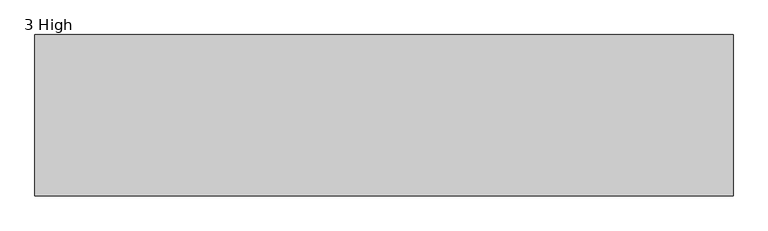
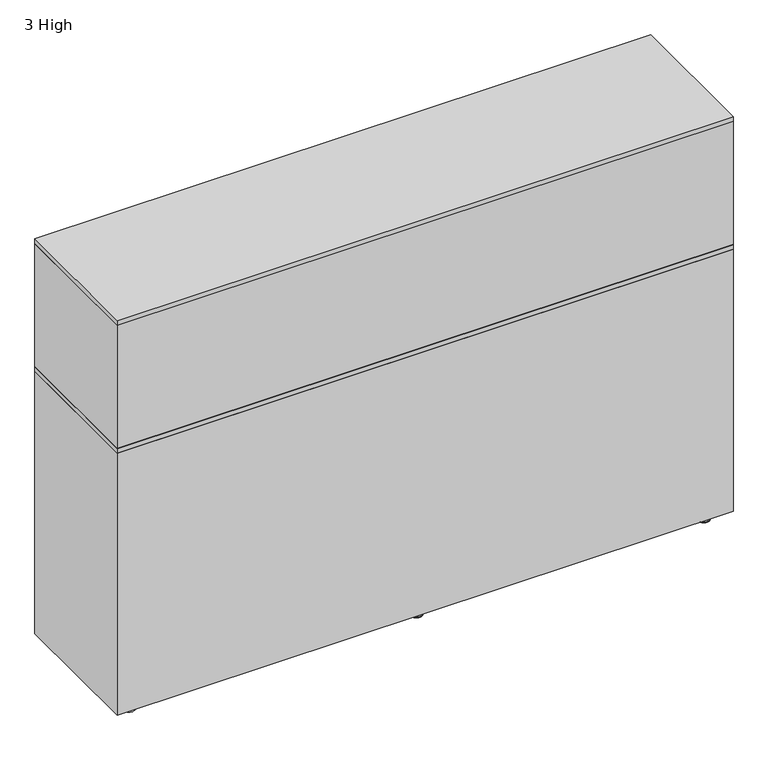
"""IFC4 building model written with IfcOpenShell, lengths in millimetres: furniture geometry, Steelcase Turnstone - Bivi - Storage - Depot : 3 High."""

from ifc_helpers import new_model, si_unit, point, frame, frame_2d, origin, place, context, project, spatial, polyline, circle_curve, ellipse_curve, trimmed, segment, composite_curve, outline, extrude, faceted_brep, source, transform, mapped, element, save
from ifc_brep_helpers import plane_surface, cylinder_surface, revolved_surface, spline_surface, advanced_brep


def furniture_3_high_75bf60bf(model_context):
    return source(origin(), model_context, "Body", "SolidModel", [
        extrude(outline(polyline([(1524.0, 0.0), (1524.0, -352.425), (0.0, -352.425), (0.0, 0.0), (1524.0, 0.0)])), frame((0.0, 0.0, 711.2), z_axis=(0.0, 0.0, 1.0), x_axis=(1.0, 0.0, 0.0)), (0.0, 0.0, 1.0), 11.8411135),
        extrude(outline(polyline([(1524.0, 0.0), (1524.0, -352.425), (0.0, -352.425), (0.0, 0.0), (1524.0, 0.0)])), frame((0.0, 0.0, 1045.1923436), z_axis=(0.0, 0.0, 1.0), x_axis=(1.0, 0.0, 0.0)), (0.0, 0.0, 1.0), 12.5983953),
        faceted_brep([(1524.0, 0.0, 1045.1923436), (1524.0, -352.425, 1045.1923436), (1524.0, -352.425, 723.9), (1524.0, 0.0, 723.9), (0.0, 0.0, 1045.1923436), (0.0, 0.0, 723.9), (0.0, -352.425, 723.9), (0.0, -352.425, 1045.1923436), (13.081, 0.0, 1045.1923436), (13.081, 0.0, 736.6), (468.2743967, 0.0, 736.6), (468.2743967, 0.0, 1045.1923436), (481.3553933, 0.0, 1045.1923436), (481.3553933, 0.0, 736.6), (1041.2984316, 0.0, 736.6), (1041.2984316, 0.0, 1045.1923436), (1054.3793919, 0.0, 1045.1923436), (1054.3793919, 0.0, 736.6), (1510.9189671, 0.0, 736.6), (1510.9189671, 0.0, 1045.1923436), (1510.9189671, -339.217, 1045.1923436), (1054.3793919, -339.217, 1045.1923436), (1041.2984316, -339.217, 1045.1923436), (481.3553933, -339.217, 1045.1923436), (468.2743967, -339.217, 1045.1923436), (13.081, -339.217, 1045.1923436), (13.081, -339.217, 736.6), (468.2743967, -339.217, 736.6), (481.3553933, -339.217, 736.6), (1041.2984316, -339.217, 736.6), (1054.3793919, -339.217, 736.6), (1510.9189671, -339.217, 736.6)], [[[0, 1, 2, 3]], [[4, 5, 6, 7]], [[3, 5, 4, 8, 9, 10, 11, 12, 13, 14, 15, 16, 17, 18, 19, 0]], [[2, 6, 5, 3]], [[1, 7, 6, 2]], [[0, 19, 20, 21, 16, 15, 22, 23, 12, 11, 24, 25, 8, 4, 7, 1]], [[26, 9, 8, 25]], [[27, 10, 9, 26]], [[24, 11, 10, 27]], [[28, 13, 12, 23]], [[29, 14, 13, 28]], [[22, 15, 14, 29]], [[30, 17, 16, 21]], [[31, 18, 17, 30]], [[20, 19, 18, 31]], [[25, 24, 27, 26]], [[23, 22, 29, 28]], [[21, 20, 31, 30]]]),
        advanced_brep(
        [(776.7323801, -38.0780241, 2.6178944), (762.0156381, -38.0780241, 2.6178944), (747.2988961, -38.0780241, 2.6178944), (769.706563, -38.0780241, 8.8411838), (754.3247132, -38.0780241, 8.8411838), (769.706563, -38.0780241, 10.8986525), (754.3247132, -38.0780241, 10.8986525), (762.0156381, -38.0780241, 10.8986525)],
        [
            (0, 1),
            (1, 2),
            (2, 0, circle_curve(frame((762.0156381, -38.0780241, 2.6178944), z_axis=(0.0, 0.0, -1.0), x_axis=(-1.0, 0.0, 0.0)), 14.716742)),
            (0, 2, circle_curve(frame((762.0156381, -38.0780241, 2.6178944), z_axis=(0.0, 0.0, -1.0), x_axis=(-1.0, 0.0, 0.0)), 14.716742)),
            (3, 0, circle_curve(frame((776.0093917, -38.0780241, 8.8792349), z_axis=(0.0, -1.0, 0.0), x_axis=(-1.0, 0.0, 0.0)), 6.3029436)),
            (2, 4, circle_curve(frame((748.0218845, -38.0780241, 8.8792349), z_axis=(0.0, -1.0, 0.0), x_axis=(1.0, 0.0, 0.0)), 6.3029436)),
            (4, 3, circle_curve(frame((762.0156381, -38.0780241, 8.8411838), z_axis=(0.0, 0.0, -1.0), x_axis=(-1.0, 0.0, 0.0)), 7.6909249)),
            (3, 4, circle_curve(frame((762.0156381, -38.0780241, 8.8411838), z_axis=(0.0, 0.0, -1.0), x_axis=(-1.0, 0.0, 0.0)), 7.6909249)),
            (5, 3),
            (4, 6),
            (6, 5, circle_curve(frame((762.0156381, -38.0780241, 10.8986525), z_axis=(0.0, 0.0, -1.0), x_axis=(-1.0, 0.0, 0.0)), 7.6909249)),
            (5, 6, circle_curve(frame((762.0156381, -38.0780241, 10.8986525), z_axis=(0.0, 0.0, -1.0), x_axis=(-1.0, 0.0, 0.0)), 7.6909249)),
            (7, 5),
            (6, 7),
        ],
        [
            plane_surface(frame((762.0156381, -38.0780241, 2.6178944), z_axis=(0.0, 0.0, -1.0), x_axis=(-1.0, 0.0, 0.0))),
            revolved_surface(trimmed(ellipse_curve(frame((748.0218845, -38.0780241, 8.8792349), z_axis=(0.0, -1.0, 0.0), x_axis=(1.0, 0.0, 0.0)), 6.3029436, 6.3029436), [point((747.2988961, -38.0780241, 2.6178944))], [point((754.3247132, -38.0780241, 8.8411838))], True, "CARTESIAN"), (762.0156381, -38.0780241, 10.8986525), (0.0, 0.0, 1.0)),
            cylinder_surface(frame((762.0156381, -38.0780241, 10.8986525), z_axis=(0.0, 0.0, 1.0), x_axis=(-1.0, 0.0, 0.0)), 7.6909249),
            plane_surface(frame((762.0156381, -38.0780241, 10.8986525), z_axis=(0.0, 0.0, 1.0), x_axis=(-1.0, 0.0, 0.0))),
        ],
        [
            (0, [[1, 2, 3]]),
            (0, [[-2, -1, 4]]),
            (1, [[5, -3, 6, 7]]),
            (1, [[-6, -4, -5, 8]]),
            (2, [[9, -7, 10, 11]]),
            (2, [[-10, -8, -9, 12]]),
            (3, [[13, -11, 14]]),
            (3, [[-14, -12, -13]]),
        ],
    ),
        advanced_brep(
        [(775.1743443, -38.0780241, 0.0), (762.0269522, -38.0780241, 0.0), (748.8795601, -38.0780241, 0.0), (776.7550083, -38.0780241, 1.580664), (747.2988961, -38.0780241, 1.580664), (776.7550083, -38.0780241, 2.6178944), (747.2988961, -38.0780241, 2.6178944), (762.0269522, -38.0780241, 2.6178944)],
        [
            (0, 1),
            (1, 2),
            (2, 0, circle_curve(frame((762.0269522, -38.0780241, 0.0), z_axis=(0.0, 0.0, -1.0), x_axis=(-1.0, 0.0, 0.0)), 13.1473921)),
            (0, 2, circle_curve(frame((762.0269522, -38.0780241, 0.0), z_axis=(0.0, 0.0, -1.0), x_axis=(-1.0, 0.0, 0.0)), 13.1473921)),
            (3, 0, circle_curve(frame((775.1743443, -38.0780241, 1.580664), z_axis=(0.0, 1.0, 0.0), x_axis=(-1.0, 0.0, 0.0)), 1.580664)),
            (2, 4, circle_curve(frame((748.8795601, -38.0780241, 1.580664), z_axis=(0.0, 1.0, 0.0), x_axis=(1.0, 0.0, 0.0)), 1.580664)),
            (4, 3, circle_curve(frame((762.0269522, -38.0780241, 1.580664), z_axis=(0.0, 0.0, -1.0), x_axis=(-1.0, 0.0, 0.0)), 14.7280561)),
            (3, 4, circle_curve(frame((762.0269522, -38.0780241, 1.580664), z_axis=(0.0, 0.0, -1.0), x_axis=(-1.0, 0.0, 0.0)), 14.7280561)),
            (5, 3),
            (4, 6),
            (6, 5, circle_curve(frame((762.0269522, -38.0780241, 2.6178944), z_axis=(0.0, 0.0, -1.0), x_axis=(-1.0, 0.0, 0.0)), 14.7280561)),
            (5, 6, circle_curve(frame((762.0269522, -38.0780241, 2.6178944), z_axis=(0.0, 0.0, -1.0), x_axis=(-1.0, 0.0, 0.0)), 14.7280561)),
            (7, 5),
            (6, 7),
        ],
        [
            plane_surface(frame((762.0269522, -38.0780241, 0.0), z_axis=(0.0, 0.0, -1.0), x_axis=(-1.0, 0.0, 0.0))),
            revolved_surface(trimmed(ellipse_curve(frame((748.8795601, -38.0780241, 1.580664), z_axis=(0.0, 1.0, 0.0), x_axis=(1.0, 0.0, 0.0)), 1.580664, 1.580664), [point((748.8795601, -38.0780241, 0.0))], [point((747.2988961, -38.0780241, 1.580664))], True, "CARTESIAN"), (762.0269522, -38.0780241, 2.6178944), (0.0, 0.0, 1.0)),
            cylinder_surface(frame((762.0269522, -38.0780241, 2.6178944), z_axis=(0.0, 0.0, 1.0), x_axis=(-1.0, 0.0, 0.0)), 14.7280561),
            plane_surface(frame((762.0269522, -38.0780241, 2.6178944), z_axis=(0.0, 0.0, 1.0), x_axis=(-1.0, 0.0, 0.0))),
        ],
        [
            (0, [[1, 2, 3]]),
            (0, [[-2, -1, 4]]),
            (1, [[5, -3, 6, 7]]),
            (1, [[-6, -4, -5, 8]]),
            (2, [[9, -7, 10, 11]]),
            (2, [[-10, -8, -9, 12]]),
            (3, [[13, -11, 14]]),
            (3, [[-14, -12, -13]]),
        ],
    ),
        extrude(outline(composite_curve([segment(trimmed(circle_curve(frame_2d((762.0156381, -38.1183079)), 3.9557313), [point((758.0599068, -38.1183079))], [point((765.9713694, -38.1183079))], False, "CARTESIAN"), True, "CONTINUOUS"), segment(trimmed(circle_curve(frame_2d((762.0156381, -38.1183079)), 3.9557313), [point((765.9713694, -38.1183079))], [point((758.0599068, -38.1183079))], False, "CARTESIAN"), True, "CONTINUOUS")], self_intersect=False)), frame((0.0, 0.0, 10.8986525), z_axis=(0.0, 0.0, 1.0), x_axis=(1.0, 0.0, 0.0)), (0.0, 0.0, 1.0), 11.6640053),
        advanced_brep(
        [(758.0822362, -38.1098067, 22.5626578), (765.9722002, -38.1098067, 22.5626578), (759.079, -38.1098067, 23.622), (764.9502172, -38.1098067, 23.622)],
        [
            (0, 1, circle_curve(frame((762.0272182, -38.1098067, 22.5626578), z_axis=(0.0, 0.0, -1.0), x_axis=(1.0, 0.0, 0.0)), 3.944982)),
            (1, 0, circle_curve(frame((762.0272182, -38.1098067, 22.5626578), z_axis=(0.0, 0.0, -1.0), x_axis=(1.0, 0.0, 0.0)), 3.944982)),
            (2, 3, circle_curve(frame((762.0146086, -38.1098067, 23.622), z_axis=(0.0, 0.0, 1.0), x_axis=(1.0, 0.0, 0.0)), 2.9356086)),
            (3, 2, circle_curve(frame((762.0146086, -38.1098067, 23.622), z_axis=(0.0, 0.0, 1.0), x_axis=(1.0, 0.0, 0.0)), 2.9356086)),
            (2, 0),
            (1, 3),
        ],
        [
            plane_surface(frame((762.0272182, -38.1098067, 22.5626578), z_axis=(0.0, 0.0, -1.0), x_axis=(0.0, 1.0, 0.0))),
            plane_surface(frame((762.0146086, -38.1098067, 23.622), z_axis=(0.0, 0.0, 1.0), x_axis=(0.0, 1.0, 0.0))),
            spline_surface(1, 2, [[(759.079, -38.1098067, 23.622), (759.079, -41.04541530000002, 23.622), (762.0146086, -41.04541530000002, 23.622), (764.9502172, -41.04541530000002, 23.622), (764.9502172, -38.1098067, 23.622)], [(758.0822362, -38.1098067, 22.5626578), (758.0822362, -42.05478869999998, 22.5626578), (762.0272182, -42.05478869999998, 22.5626578), (765.9722002, -42.05478869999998, 22.5626578), (765.9722002, -38.1098067, 22.5626578)]], [2, 2], [3, 2, 3], [0.0, 1.0], [0.0, 1.0, 2.0], weights=[[1.0, 0.7071067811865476, 1.0, 0.7071067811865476, 1.0], [1.0, 0.7071067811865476, 1.0, 0.7071067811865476, 1.0]]),
            spline_surface(1, 2, [[(764.9502172, -38.1098067, 23.622), (764.9502172, -35.17419809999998, 23.622), (762.0146086, -35.17419809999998, 23.622), (759.079, -35.17419809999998, 23.622), (759.079, -38.1098067, 23.622)], [(765.9722002, -38.1098067, 22.5626578), (765.9722002, -34.16482470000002, 22.5626578), (762.0272182, -34.16482470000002, 22.5626578), (758.0822362, -34.16482470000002, 22.5626578), (758.0822362, -38.1098067, 22.5626578)]], [2, 2], [3, 2, 3], [0.0, 1.0], [0.0, 1.0, 2.0], weights=[[1.0, 0.7071067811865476, 1.0, 0.7071067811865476, 1.0], [1.0, 0.7071067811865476, 1.0, 0.7071067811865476, 1.0]]),
        ],
        [
            (0, [[1, 2]]),
            (1, [[3, 4]]),
            (2, [[5, -2, 6, -3]]),
            (3, [[-6, -1, -5, -4]]),
        ],
    ),
        advanced_brep(
        [(769.706563, -314.3469759, 10.8986525), (762.0156381, -314.3469759, 10.8986525), (754.3247132, -314.3469759, 10.8986525), (769.706563, -314.3469759, 8.8411838), (754.3247132, -314.3469759, 8.8411838), (776.7323801, -314.3469759, 2.6178944), (747.2988961, -314.3469759, 2.6178944), (762.0156381, -314.3469759, 2.6178944)],
        [
            (0, 1),
            (1, 2),
            (2, 0, circle_curve(frame((762.0156381, -314.3469759, 10.8986525), z_axis=(0.0, 0.0, 1.0), x_axis=(-1.0, 0.0, 0.0)), 7.6909249)),
            (0, 2, circle_curve(frame((762.0156381, -314.3469759, 10.8986525), z_axis=(0.0, 0.0, 1.0), x_axis=(-1.0, 0.0, 0.0)), 7.6909249)),
            (3, 0),
            (2, 4),
            (4, 3, circle_curve(frame((762.0156381, -314.3469759, 8.8411838), z_axis=(0.0, 0.0, 1.0), x_axis=(-1.0, 0.0, 0.0)), 7.6909249)),
            (3, 4, circle_curve(frame((762.0156381, -314.3469759, 8.8411838), z_axis=(0.0, 0.0, 1.0), x_axis=(-1.0, 0.0, 0.0)), 7.6909249)),
            (5, 3, circle_curve(frame((776.0093917, -314.3469759, 8.8792349), z_axis=(0.0, 1.0, 0.0), x_axis=(-1.0, 0.0, 0.0)), 6.3029436)),
            (4, 6, circle_curve(frame((748.0218845, -314.3469759, 8.8792349), z_axis=(0.0, 1.0, 0.0), x_axis=(1.0, 0.0, 0.0)), 6.3029436)),
            (6, 5, circle_curve(frame((762.0156381, -314.3469759, 2.6178944), z_axis=(0.0, 0.0, 1.0), x_axis=(-1.0, 0.0, 0.0)), 14.716742)),
            (5, 6, circle_curve(frame((762.0156381, -314.3469759, 2.6178944), z_axis=(0.0, 0.0, 1.0), x_axis=(-1.0, 0.0, 0.0)), 14.716742)),
            (7, 5),
            (6, 7),
        ],
        [
            plane_surface(frame((762.0156381, -314.3469759, 10.8986525), z_axis=(0.0, 0.0, 1.0), x_axis=(-1.0, 0.0, 0.0))),
            cylinder_surface(frame((762.0156381, -314.3469759, 10.8986525), z_axis=(0.0, 0.0, -1.0), x_axis=(-1.0, 0.0, 0.0)), 7.6909249),
            revolved_surface(trimmed(ellipse_curve(frame((748.0218845, -314.3469759, 8.8792349), z_axis=(0.0, 1.0, 0.0), x_axis=(1.0, 0.0, 0.0)), 6.3029436, 6.3029436), [point((754.3247132, -314.3469759, 8.8411838))], [point((747.2988961, -314.3469759, 2.6178944))], True, "CARTESIAN"), (762.0156381, -314.3469759, 10.8986525), (0.0, 0.0, -1.0)),
            plane_surface(frame((762.0156381, -314.3469759, 2.6178944), z_axis=(0.0, 0.0, -1.0), x_axis=(-1.0, 0.0, 0.0))),
        ],
        [
            (0, [[1, 2, 3]]),
            (0, [[-2, -1, 4]]),
            (1, [[5, -3, 6, 7]]),
            (1, [[-6, -4, -5, 8]]),
            (2, [[9, -7, 10, 11]]),
            (2, [[-10, -8, -9, 12]]),
            (3, [[13, -11, 14]]),
            (3, [[-14, -12, -13]]),
        ],
    ),
        advanced_brep(
        [(776.7550083, -314.3469759, 2.6178944), (762.0269522, -314.3469759, 2.6178944), (747.2988961, -314.3469759, 2.6178944), (776.7550083, -314.3469759, 1.580664), (747.2988961, -314.3469759, 1.580664), (775.1743443, -314.3469759, 0.0), (748.8795601, -314.3469759, 0.0), (762.0269522, -314.3469759, 0.0)],
        [
            (0, 1),
            (1, 2),
            (2, 0, circle_curve(frame((762.0269522, -314.3469759, 2.6178944), z_axis=(0.0, 0.0, 1.0), x_axis=(-1.0, 0.0, 0.0)), 14.7280561)),
            (0, 2, circle_curve(frame((762.0269522, -314.3469759, 2.6178944), z_axis=(0.0, 0.0, 1.0), x_axis=(-1.0, 0.0, 0.0)), 14.7280561)),
            (3, 0),
            (2, 4),
            (4, 3, circle_curve(frame((762.0269522, -314.3469759, 1.580664), z_axis=(0.0, 0.0, 1.0), x_axis=(-1.0, 0.0, 0.0)), 14.7280561)),
            (3, 4, circle_curve(frame((762.0269522, -314.3469759, 1.580664), z_axis=(0.0, 0.0, 1.0), x_axis=(-1.0, 0.0, 0.0)), 14.7280561)),
            (5, 3, circle_curve(frame((775.1743443, -314.3469759, 1.580664), z_axis=(0.0, -1.0, 0.0), x_axis=(-1.0, 0.0, 0.0)), 1.580664)),
            (4, 6, circle_curve(frame((748.8795601, -314.3469759, 1.580664), z_axis=(0.0, -1.0, 0.0), x_axis=(1.0, 0.0, 0.0)), 1.580664)),
            (6, 5, circle_curve(frame((762.0269522, -314.3469759, 0.0), z_axis=(0.0, 0.0, 1.0), x_axis=(-1.0, 0.0, 0.0)), 13.1473921)),
            (5, 6, circle_curve(frame((762.0269522, -314.3469759, 0.0), z_axis=(0.0, 0.0, 1.0), x_axis=(-1.0, 0.0, 0.0)), 13.1473921)),
            (7, 5),
            (6, 7),
        ],
        [
            plane_surface(frame((762.0269522, -314.3469759, 2.6178944), z_axis=(0.0, 0.0, 1.0), x_axis=(-1.0, 0.0, 0.0))),
            cylinder_surface(frame((762.0269522, -314.3469759, 2.6178944), z_axis=(0.0, 0.0, -1.0), x_axis=(-1.0, 0.0, 0.0)), 14.7280561),
            revolved_surface(trimmed(ellipse_curve(frame((748.8795601, -314.3469759, 1.580664), z_axis=(0.0, -1.0, 0.0), x_axis=(1.0, 0.0, 0.0)), 1.580664, 1.580664), [point((747.2988961, -314.3469759, 1.580664))], [point((748.8795601, -314.3469759, 0.0))], True, "CARTESIAN"), (762.0269522, -314.3469759, 2.6178944), (0.0, 0.0, -1.0)),
            plane_surface(frame((762.0269522, -314.3469759, 0.0), z_axis=(0.0, 0.0, -1.0), x_axis=(-1.0, 0.0, 0.0))),
        ],
        [
            (0, [[1, 2, 3]]),
            (0, [[-2, -1, 4]]),
            (1, [[5, -3, 6, 7]]),
            (1, [[-6, -4, -5, 8]]),
            (2, [[9, -7, 10, 11]]),
            (2, [[-10, -8, -9, 12]]),
            (3, [[13, -11, 14]]),
            (3, [[-14, -12, -13]]),
        ],
    ),
        extrude(outline(composite_curve([segment(trimmed(circle_curve(frame_2d((762.0156381, -314.3066921)), 3.9557313), [point((758.0599068, -314.3066921))], [point((765.9713694, -314.3066921))], False, "CARTESIAN"), True, "CONTINUOUS"), segment(trimmed(circle_curve(frame_2d((762.0156381, -314.3066921)), 3.9557313), [point((765.9713694, -314.3066921))], [point((758.0599068, -314.3066921))], False, "CARTESIAN"), True, "CONTINUOUS")], self_intersect=False)), frame((0.0, 0.0, 10.8986525), z_axis=(0.0, 0.0, 1.0), x_axis=(1.0, 0.0, 0.0)), (0.0, 0.0, 1.0), 11.6640053),
        advanced_brep(
        [(758.0822362, -314.3151933, 22.5626578), (765.9722002, -314.3151933, 22.5626578), (759.079, -314.3151933, 23.622), (764.9502172, -314.3151933, 23.622)],
        [
            (0, 1, circle_curve(frame((762.0272182, -314.3151933, 22.5626578), z_axis=(0.0, 0.0, -1.0), x_axis=(1.0, 0.0, 0.0)), 3.944982)),
            (1, 0, circle_curve(frame((762.0272182, -314.3151933, 22.5626578), z_axis=(0.0, 0.0, -1.0), x_axis=(1.0, 0.0, 0.0)), 3.944982)),
            (2, 3, circle_curve(frame((762.0146086, -314.3151933, 23.622), z_axis=(0.0, 0.0, 1.0), x_axis=(1.0, 0.0, 0.0)), 2.9356086)),
            (3, 2, circle_curve(frame((762.0146086, -314.3151933, 23.622), z_axis=(0.0, 0.0, 1.0), x_axis=(1.0, 0.0, 0.0)), 2.9356086)),
            (2, 0),
            (1, 3),
        ],
        [
            plane_surface(frame((762.0272182, -314.3151933, 22.5626578), z_axis=(0.0, 0.0, -1.0), x_axis=(0.0, 1.0, 0.0))),
            plane_surface(frame((762.0146086, -314.3151933, 23.622), z_axis=(0.0, 0.0, 1.0), x_axis=(0.0, 1.0, 0.0))),
            spline_surface(1, 2, [[(759.079, -314.3151933, 23.622), (759.079, -317.2508019, 23.622), (762.0146086, -317.2508019, 23.622), (764.9502172, -317.2508019, 23.622), (764.9502172, -314.3151933, 23.622)], [(758.0822362, -314.3151933, 22.5626578), (758.0822362, -318.26017529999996, 22.5626578), (762.0272182, -318.26017529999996, 22.5626578), (765.9722002, -318.26017529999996, 22.5626578), (765.9722002, -314.3151933, 22.5626578)]], [2, 2], [3, 2, 3], [0.0, 1.0], [0.0, 1.0, 2.0], weights=[[1.0, 0.7071067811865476, 1.0, 0.7071067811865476, 1.0], [1.0, 0.7071067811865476, 1.0, 0.7071067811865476, 1.0]]),
            spline_surface(1, 2, [[(764.9502172, -314.3151933, 23.622), (764.9502172, -311.37958469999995, 23.622), (762.0146086, -311.37958469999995, 23.622), (759.079, -311.37958469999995, 23.622), (759.079, -314.3151933, 23.622)], [(765.9722002, -314.3151933, 22.5626578), (765.9722002, -310.3702113, 22.5626578), (762.0272182, -310.3702113, 22.5626578), (758.0822362, -310.3702113, 22.5626578), (758.0822362, -314.3151933, 22.5626578)]], [2, 2], [3, 2, 3], [0.0, 1.0], [0.0, 1.0, 2.0], weights=[[1.0, 0.7071067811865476, 1.0, 0.7071067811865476, 1.0], [1.0, 0.7071067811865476, 1.0, 0.7071067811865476, 1.0]]),
        ],
        [
            (0, [[1, 2]]),
            (1, [[3, 4]]),
            (2, [[5, -2, 6, -3]]),
            (3, [[-6, -1, -5, -4]]),
        ],
    ),
        faceted_brep([(0.0, 0.0, 711.2), (13.081, 0.0, 711.2), (13.081, 0.0, 381.0), (468.2743967, 0.0, 381.0), (468.2743967, 0.0, 711.2), (481.3553933, 0.0, 711.2), (481.3553933, 0.0, 381.0), (1041.2984316, 0.0, 381.0), (1041.2984316, 0.0, 711.2), (1054.3793919, 0.0, 711.2), (1054.3793919, 0.0, 381.0), (1510.9189671, 0.0, 381.0), (1510.9189671, 0.0, 711.2), (1524.0, 0.0, 711.2), (1524.0, 0.0, 25.4), (0.0, 0.0, 25.4), (13.081, 0.0, 368.3), (13.081, 0.0, 38.1), (468.2743967, 0.0, 38.1), (468.2743967, 0.0, 368.3), (481.3553933, 0.0, 368.3), (481.3553933, 0.0, 38.1), (1041.2984316, 0.0, 38.1), (1041.2984316, 0.0, 368.3), (1054.3793919, 0.0, 368.3), (1054.3793919, 0.0, 38.1), (1510.9189671, 0.0, 38.1), (1510.9189671, 0.0, 368.3), (1524.0, -352.425, 711.2), (0.0, -352.425, 711.2), (0.0, -352.425, 25.4), (1524.0, -352.425, 25.4), (1510.9189671, -339.344, 711.2), (1054.3793919, -339.344, 711.2), (1041.2984316, -339.344, 711.2), (481.3553933, -339.344, 711.2), (468.2743967, -339.344, 711.2), (13.081, -339.344, 711.2), (468.2743967, -339.344, 368.3), (468.2743967, -339.344, 38.1), (13.081, -339.344, 38.1), (13.081, -339.344, 368.3), (1041.2984316, -339.344, 368.3), (1041.2984316, -339.344, 38.1), (481.3553933, -339.344, 38.1), (481.3553933, -339.344, 368.3), (1510.9189671, -339.344, 368.3), (1510.9189671, -339.344, 38.1), (1054.3793919, -339.344, 38.1), (1054.3793919, -339.344, 368.3), (468.2743967, -339.344, 381.0), (13.081, -339.344, 381.0), (1041.2984316, -339.344, 381.0), (481.3553933, -339.344, 381.0), (1510.9189671, -339.344, 381.0), (1054.3793919, -339.344, 381.0)], [[[0, 1, 2, 3, 4, 5, 6, 7, 8, 9, 10, 11, 12, 13, 14, 15], [16, 17, 18, 19], [20, 21, 22, 23], [24, 25, 26, 27]], [[28, 29, 30, 31]], [[28, 13, 12, 32, 33, 9, 8, 34, 35, 5, 4, 36, 37, 1, 0, 29]], [[15, 30, 29, 0]], [[14, 31, 30, 15]], [[13, 28, 31, 14]], [[38, 39, 40, 41]], [[42, 43, 44, 45]], [[46, 47, 48, 49]], [[37, 36, 50, 51]], [[35, 34, 52, 53]], [[33, 32, 54, 55]], [[51, 2, 1, 37]], [[50, 3, 2, 51]], [[36, 4, 3, 50]], [[53, 6, 5, 35]], [[52, 7, 6, 53]], [[34, 8, 7, 52]], [[55, 10, 9, 33]], [[54, 11, 10, 55]], [[32, 12, 11, 54]], [[41, 16, 19, 38]], [[40, 17, 16, 41]], [[39, 18, 17, 40]], [[38, 19, 18, 39]], [[45, 20, 23, 42]], [[44, 21, 20, 45]], [[43, 22, 21, 44]], [[42, 23, 22, 43]], [[49, 24, 27, 46]], [[48, 25, 24, 49]], [[47, 26, 25, 48]], [[46, 27, 26, 47]]]),
        extrude(outline(polyline([(25.4000008, -13.0809966), (76.2, -13.0809966), (76.2, -339.344), (25.4000008, -339.344), (25.4000008, -13.0809966)])), frame((0.0, 0.0, 15.8750011), z_axis=(0.0, 0.0, 1.0), x_axis=(1.0, 0.0, 0.0)), (0.0, 0.0, 1.0), 9.5249989),
        extrude(outline(polyline([(736.6000242, -13.0809966), (787.4000235, -13.0809966), (787.4000235, -339.344), (736.6000242, -339.344), (736.6000242, -13.0809966)])), frame((0.0, 0.0, 15.8750011), z_axis=(0.0, 0.0, 1.0), x_axis=(1.0, 0.0, 0.0)), (0.0, 0.0, 1.0), 9.5249989),
        extrude(outline(polyline([(1447.8, -13.0809966), (1498.5999992, -13.0809966), (1498.5999992, -339.344), (1447.8, -339.344), (1447.8, -13.0809966)])), frame((0.0, 0.0, 15.8750011), z_axis=(0.0, 0.0, 1.0), x_axis=(1.0, 0.0, 0.0)), (0.0, 0.0, 1.0), 9.5249989),
        advanced_brep(
        [(1465.5173965, -38.0780241, 10.8986525), (1473.2083214, -38.0780241, 10.8986525), (1480.8992463, -38.0780241, 10.8986525), (1465.5173965, -38.0780241, 8.8411838), (1480.8992463, -38.0780241, 8.8411838), (1458.4915794, -38.0780241, 2.6178944), (1487.9250634, -38.0780241, 2.6178944), (1473.2083214, -38.0780241, 2.6178944)],
        [
            (0, 1),
            (1, 2),
            (2, 0, circle_curve(frame((1473.2083214, -38.0780241, 10.8986525), z_axis=(0.0, 0.0, 1.0), x_axis=(1.0, 0.0, 0.0)), 7.6909249)),
            (0, 2, circle_curve(frame((1473.2083214, -38.0780241, 10.8986525), z_axis=(0.0, 0.0, 1.0), x_axis=(1.0, 0.0, 0.0)), 7.6909249)),
            (3, 0),
            (2, 4),
            (4, 3, circle_curve(frame((1473.2083214, -38.0780241, 8.8411838), z_axis=(0.0, 0.0, 1.0), x_axis=(1.0, 0.0, 0.0)), 7.6909249)),
            (3, 4, circle_curve(frame((1473.2083214, -38.0780241, 8.8411838), z_axis=(0.0, 0.0, 1.0), x_axis=(1.0, 0.0, 0.0)), 7.6909249)),
            (5, 3, circle_curve(frame((1459.2145678, -38.0780241, 8.8792349), z_axis=(0.0, -1.0, 0.0), x_axis=(1.0, 0.0, 0.0)), 6.3029436)),
            (4, 6, circle_curve(frame((1487.202075, -38.0780241, 8.8792349), z_axis=(0.0, -1.0, 0.0), x_axis=(-1.0, 0.0, 0.0)), 6.3029436)),
            (6, 5, circle_curve(frame((1473.2083214, -38.0780241, 2.6178944), z_axis=(0.0, 0.0, 1.0), x_axis=(1.0, 0.0, 0.0)), 14.716742)),
            (5, 6, circle_curve(frame((1473.2083214, -38.0780241, 2.6178944), z_axis=(0.0, 0.0, 1.0), x_axis=(1.0, 0.0, 0.0)), 14.716742)),
            (7, 5),
            (6, 7),
        ],
        [
            plane_surface(frame((1473.2083214, -38.0780241, 10.8986525), z_axis=(0.0, 0.0, 1.0), x_axis=(1.0, 0.0, 0.0))),
            cylinder_surface(frame((1473.2083214, -38.0780241, 10.8986525), z_axis=(0.0, 0.0, -1.0), x_axis=(1.0, 0.0, 0.0)), 7.6909249),
            revolved_surface(trimmed(ellipse_curve(frame((1487.202075, -38.0780241, 8.8792349), z_axis=(0.0, -1.0, 0.0), x_axis=(-1.0, 0.0, 0.0)), 6.3029436, 6.3029436), [point((1480.8992463, -38.0780241, 8.8411838))], [point((1487.9250634, -38.0780241, 2.6178944))], True, "CARTESIAN"), (1473.2083214, -38.0780241, 10.8986525), (0.0, 0.0, -1.0)),
            plane_surface(frame((1473.2083214, -38.0780241, 2.6178944), z_axis=(0.0, 0.0, -1.0), x_axis=(1.0, 0.0, 0.0))),
        ],
        [
            (0, [[1, 2, 3]]),
            (0, [[-2, -1, 4]]),
            (1, [[5, -3, 6, 7]]),
            (1, [[-6, -4, -5, 8]]),
            (2, [[9, -7, 10, 11]]),
            (2, [[-10, -8, -9, 12]]),
            (3, [[13, -11, 14]]),
            (3, [[-14, -12, -13]]),
        ],
    ),
        advanced_brep(
        [(1458.4689512, -38.0780241, 2.6178944), (1473.1970073, -38.0780241, 2.6178944), (1487.9250634, -38.0780241, 2.6178944), (1458.4689512, -38.0780241, 1.580664), (1487.9250634, -38.0780241, 1.580664), (1460.0496152, -38.0780241, 0.0), (1486.3443994, -38.0780241, 0.0), (1473.1970073, -38.0780241, 0.0)],
        [
            (0, 1),
            (1, 2),
            (2, 0, circle_curve(frame((1473.1970073, -38.0780241, 2.6178944), z_axis=(0.0, 0.0, 1.0), x_axis=(1.0, 0.0, 0.0)), 14.7280561)),
            (0, 2, circle_curve(frame((1473.1970073, -38.0780241, 2.6178944), z_axis=(0.0, 0.0, 1.0), x_axis=(1.0, 0.0, 0.0)), 14.7280561)),
            (3, 0),
            (2, 4),
            (4, 3, circle_curve(frame((1473.1970073, -38.0780241, 1.580664), z_axis=(0.0, 0.0, 1.0), x_axis=(1.0, 0.0, 0.0)), 14.7280561)),
            (3, 4, circle_curve(frame((1473.1970073, -38.0780241, 1.580664), z_axis=(0.0, 0.0, 1.0), x_axis=(1.0, 0.0, 0.0)), 14.7280561)),
            (5, 3, circle_curve(frame((1460.0496152, -38.0780241, 1.580664), z_axis=(0.0, 1.0, 0.0), x_axis=(1.0, 0.0, 0.0)), 1.580664)),
            (4, 6, circle_curve(frame((1486.3443994, -38.0780241, 1.580664), z_axis=(0.0, 1.0, 0.0), x_axis=(-1.0, 0.0, 0.0)), 1.580664)),
            (6, 5, circle_curve(frame((1473.1970073, -38.0780241, 0.0), z_axis=(0.0, 0.0, 1.0), x_axis=(1.0, 0.0, 0.0)), 13.1473921)),
            (5, 6, circle_curve(frame((1473.1970073, -38.0780241, 0.0), z_axis=(0.0, 0.0, 1.0), x_axis=(1.0, 0.0, 0.0)), 13.1473921)),
            (7, 5),
            (6, 7),
        ],
        [
            plane_surface(frame((1473.1970073, -38.0780241, 2.6178944), z_axis=(0.0, 0.0, 1.0), x_axis=(1.0, 0.0, 0.0))),
            cylinder_surface(frame((1473.1970073, -38.0780241, 2.6178944), z_axis=(0.0, 0.0, -1.0), x_axis=(1.0, 0.0, 0.0)), 14.7280561),
            revolved_surface(trimmed(ellipse_curve(frame((1486.3443994, -38.0780241, 1.580664), z_axis=(0.0, 1.0, 0.0), x_axis=(-1.0, 0.0, 0.0)), 1.580664, 1.580664), [point((1487.9250634, -38.0780241, 1.580664))], [point((1486.3443994, -38.0780241, 0.0))], True, "CARTESIAN"), (1473.1970073, -38.0780241, 2.6178944), (0.0, 0.0, -1.0)),
            plane_surface(frame((1473.1970073, -38.0780241, 0.0), z_axis=(0.0, 0.0, -1.0), x_axis=(1.0, 0.0, 0.0))),
        ],
        [
            (0, [[1, 2, 3]]),
            (0, [[-2, -1, 4]]),
            (1, [[5, -3, 6, 7]]),
            (1, [[-6, -4, -5, 8]]),
            (2, [[9, -7, 10, 11]]),
            (2, [[-10, -8, -9, 12]]),
            (3, [[13, -11, 14]]),
            (3, [[-14, -12, -13]]),
        ],
    ),
        extrude(outline(composite_curve([segment(trimmed(circle_curve(frame_2d((1473.2083214, -38.1183079)), 3.9557313), [point((1477.1640527, -38.1183079))], [point((1469.2525901, -38.1183079))], False, "CARTESIAN"), True, "CONTINUOUS"), segment(trimmed(circle_curve(frame_2d((1473.2083214, -38.1183079)), 3.9557313), [point((1469.2525901, -38.1183079))], [point((1477.1640527, -38.1183079))], False, "CARTESIAN"), True, "CONTINUOUS")], self_intersect=False)), frame((0.0, 0.0, 10.8986525), z_axis=(0.0, 0.0, 1.0), x_axis=(1.0, 0.0, 0.0)), (0.0, 0.0, 1.0), 11.6640053),
        advanced_brep(
        [(1477.1417233, -38.1098067, 22.5626578), (1469.2517593, -38.1098067, 22.5626578), (1476.1449595, -38.1098067, 23.622), (1470.2737423, -38.1098067, 23.622)],
        [
            (0, 1, circle_curve(frame((1473.1967413, -38.1098067, 22.5626578), z_axis=(0.0, 0.0, -1.0), x_axis=(-1.0, 0.0, 0.0)), 3.944982)),
            (1, 0, circle_curve(frame((1473.1967413, -38.1098067, 22.5626578), z_axis=(0.0, 0.0, -1.0), x_axis=(-1.0, 0.0, 0.0)), 3.944982)),
            (2, 3, circle_curve(frame((1473.2093509, -38.1098067, 23.622), z_axis=(0.0, 0.0, 1.0), x_axis=(-1.0, 0.0, 0.0)), 2.9356086)),
            (3, 2, circle_curve(frame((1473.2093509, -38.1098067, 23.622), z_axis=(0.0, 0.0, 1.0), x_axis=(-1.0, 0.0, 0.0)), 2.9356086)),
            (2, 0),
            (1, 3),
        ],
        [
            plane_surface(frame((1473.1967413, -38.1098067, 22.5626578), z_axis=(0.0, 0.0, -1.0), x_axis=(0.0, -1.0, 0.0))),
            plane_surface(frame((1473.2093509, -38.1098067, 23.622), z_axis=(0.0, 0.0, 1.0), x_axis=(0.0, -1.0, 0.0))),
            spline_surface(1, 2, [[(1476.1449595, -38.1098067, 23.622), (1476.1449595, -35.17419809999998, 23.622), (1473.2093509, -35.17419809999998, 23.622), (1470.2737422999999, -35.17419809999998, 23.622), (1470.2737423, -38.1098067, 23.622)], [(1477.1417233, -38.1098067, 22.5626578), (1477.1417233, -34.16482470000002, 22.5626578), (1473.1967413, -34.16482470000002, 22.5626578), (1469.2517593, -34.16482470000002, 22.5626578), (1469.2517593, -38.1098067, 22.5626578)]], [2, 2], [3, 2, 3], [0.0, 1.0], [0.0, 1.0, 2.0], weights=[[1.0, 0.7071067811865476, 1.0, 0.7071067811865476, 1.0], [1.0, 0.7071067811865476, 1.0, 0.7071067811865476, 1.0]]),
            spline_surface(1, 2, [[(1470.2737423, -38.1098067, 23.622), (1470.2737423, -41.045415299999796, 23.622), (1473.2093509, -41.045415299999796, 23.622), (1476.1449594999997, -41.045415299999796, 23.622), (1476.1449595, -38.1098067, 23.622)], [(1469.2517593, -38.1098067, 22.5626578), (1469.2517593, -42.05478869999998, 22.5626578), (1473.1967413, -42.05478869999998, 22.5626578), (1477.1417233, -42.05478869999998, 22.5626578), (1477.1417233, -38.1098067, 22.5626578)]], [2, 2], [3, 2, 3], [0.0, 1.0], [0.0, 1.0, 2.0], weights=[[1.0, 0.7071067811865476, 1.0, 0.7071067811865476, 1.0], [1.0, 0.7071067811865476, 1.0, 0.7071067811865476, 1.0]]),
        ],
        [
            (0, [[1, 2]]),
            (1, [[3, 4]]),
            (2, [[5, -2, 6, -3]]),
            (3, [[-6, -1, -5, -4]]),
        ],
    ),
        advanced_brep(
        [(65.5084206, -38.0780241, 2.6178944), (50.7916786, -38.0780241, 2.6178944), (36.0749366, -38.0780241, 2.6178944), (58.4826035, -38.0780241, 8.8411838), (43.1007537, -38.0780241, 8.8411838), (58.4826035, -38.0780241, 10.8986525), (43.1007537, -38.0780241, 10.8986525), (50.7916786, -38.0780241, 10.8986525)],
        [
            (0, 1),
            (1, 2),
            (2, 0, circle_curve(frame((50.7916786, -38.0780241, 2.6178944), z_axis=(0.0, 0.0, -1.0), x_axis=(-1.0, 0.0, 0.0)), 14.716742)),
            (0, 2, circle_curve(frame((50.7916786, -38.0780241, 2.6178944), z_axis=(0.0, 0.0, -1.0), x_axis=(-1.0, 0.0, 0.0)), 14.716742)),
            (3, 0, circle_curve(frame((64.7854322, -38.0780241, 8.8792349), z_axis=(0.0, -1.0, 0.0), x_axis=(-1.0, 0.0, 0.0)), 6.3029436)),
            (2, 4, circle_curve(frame((36.797925, -38.0780241, 8.8792349), z_axis=(0.0, -1.0, 0.0), x_axis=(1.0, 0.0, 0.0)), 6.3029436)),
            (4, 3, circle_curve(frame((50.7916786, -38.0780241, 8.8411838), z_axis=(0.0, 0.0, -1.0), x_axis=(-1.0, 0.0, 0.0)), 7.6909249)),
            (3, 4, circle_curve(frame((50.7916786, -38.0780241, 8.8411838), z_axis=(0.0, 0.0, -1.0), x_axis=(-1.0, 0.0, 0.0)), 7.6909249)),
            (5, 3),
            (4, 6),
            (6, 5, circle_curve(frame((50.7916786, -38.0780241, 10.8986525), z_axis=(0.0, 0.0, -1.0), x_axis=(-1.0, 0.0, 0.0)), 7.6909249)),
            (5, 6, circle_curve(frame((50.7916786, -38.0780241, 10.8986525), z_axis=(0.0, 0.0, -1.0), x_axis=(-1.0, 0.0, 0.0)), 7.6909249)),
            (7, 5),
            (6, 7),
        ],
        [
            plane_surface(frame((50.7916786, -38.0780241, 2.6178944), z_axis=(0.0, 0.0, -1.0), x_axis=(-1.0, 0.0, 0.0))),
            revolved_surface(trimmed(ellipse_curve(frame((36.797925, -38.0780241, 8.8792349), z_axis=(0.0, -1.0, 0.0), x_axis=(1.0, 0.0, 0.0)), 6.3029436, 6.3029436), [point((36.0749366, -38.0780241, 2.6178944))], [point((43.1007537, -38.0780241, 8.8411838))], True, "CARTESIAN"), (50.7916786, -38.0780241, 10.8986525), (0.0, 0.0, 1.0)),
            cylinder_surface(frame((50.7916786, -38.0780241, 10.8986525), z_axis=(0.0, 0.0, 1.0), x_axis=(-1.0, 0.0, 0.0)), 7.6909249),
            plane_surface(frame((50.7916786, -38.0780241, 10.8986525), z_axis=(0.0, 0.0, 1.0), x_axis=(-1.0, 0.0, 0.0))),
        ],
        [
            (0, [[1, 2, 3]]),
            (0, [[-2, -1, 4]]),
            (1, [[5, -3, 6, 7]]),
            (1, [[-6, -4, -5, 8]]),
            (2, [[9, -7, 10, 11]]),
            (2, [[-10, -8, -9, 12]]),
            (3, [[13, -11, 14]]),
            (3, [[-14, -12, -13]]),
        ],
    ),
        advanced_brep(
        [(63.9503848, -38.0780241, 0.0), (50.8029927, -38.0780241, 0.0), (37.6556006, -38.0780241, 0.0), (65.5310488, -38.0780241, 1.580664), (36.0749366, -38.0780241, 1.580664), (65.5310488, -38.0780241, 2.6178944), (36.0749366, -38.0780241, 2.6178944), (50.8029927, -38.0780241, 2.6178944)],
        [
            (0, 1),
            (1, 2),
            (2, 0, circle_curve(frame((50.8029927, -38.0780241, 0.0), z_axis=(0.0, 0.0, -1.0), x_axis=(-1.0, 0.0, 0.0)), 13.1473921)),
            (0, 2, circle_curve(frame((50.8029927, -38.0780241, 0.0), z_axis=(0.0, 0.0, -1.0), x_axis=(-1.0, 0.0, 0.0)), 13.1473921)),
            (3, 0, circle_curve(frame((63.9503848, -38.0780241, 1.580664), z_axis=(0.0, 1.0, 0.0), x_axis=(-1.0, 0.0, 0.0)), 1.580664)),
            (2, 4, circle_curve(frame((37.6556006, -38.0780241, 1.580664), z_axis=(0.0, 1.0, 0.0), x_axis=(1.0, 0.0, 0.0)), 1.580664)),
            (4, 3, circle_curve(frame((50.8029927, -38.0780241, 1.580664), z_axis=(0.0, 0.0, -1.0), x_axis=(-1.0, 0.0, 0.0)), 14.7280561)),
            (3, 4, circle_curve(frame((50.8029927, -38.0780241, 1.580664), z_axis=(0.0, 0.0, -1.0), x_axis=(-1.0, 0.0, 0.0)), 14.7280561)),
            (5, 3),
            (4, 6),
            (6, 5, circle_curve(frame((50.8029927, -38.0780241, 2.6178944), z_axis=(0.0, 0.0, -1.0), x_axis=(-1.0, 0.0, 0.0)), 14.7280561)),
            (5, 6, circle_curve(frame((50.8029927, -38.0780241, 2.6178944), z_axis=(0.0, 0.0, -1.0), x_axis=(-1.0, 0.0, 0.0)), 14.7280561)),
            (7, 5),
            (6, 7),
        ],
        [
            plane_surface(frame((50.8029927, -38.0780241, 0.0), z_axis=(0.0, 0.0, -1.0), x_axis=(-1.0, 0.0, 0.0))),
            revolved_surface(trimmed(ellipse_curve(frame((37.6556006, -38.0780241, 1.580664), z_axis=(0.0, 1.0, 0.0), x_axis=(1.0, 0.0, 0.0)), 1.580664, 1.580664), [point((37.6556006, -38.0780241, 0.0))], [point((36.0749366, -38.0780241, 1.580664))], True, "CARTESIAN"), (50.8029927, -38.0780241, 2.6178944), (0.0, 0.0, 1.0)),
            cylinder_surface(frame((50.8029927, -38.0780241, 2.6178944), z_axis=(0.0, 0.0, 1.0), x_axis=(-1.0, 0.0, 0.0)), 14.7280561),
            plane_surface(frame((50.8029927, -38.0780241, 2.6178944), z_axis=(0.0, 0.0, 1.0), x_axis=(-1.0, 0.0, 0.0))),
        ],
        [
            (0, [[1, 2, 3]]),
            (0, [[-2, -1, 4]]),
            (1, [[5, -3, 6, 7]]),
            (1, [[-6, -4, -5, 8]]),
            (2, [[9, -7, 10, 11]]),
            (2, [[-10, -8, -9, 12]]),
            (3, [[13, -11, 14]]),
            (3, [[-14, -12, -13]]),
        ],
    ),
        extrude(outline(composite_curve([segment(trimmed(circle_curve(frame_2d((50.7916786, -38.1183079)), 3.9557313), [point((46.8359473, -38.1183079))], [point((54.7474099, -38.1183079))], False, "CARTESIAN"), True, "CONTINUOUS"), segment(trimmed(circle_curve(frame_2d((50.7916786, -38.1183079)), 3.9557313), [point((54.7474099, -38.1183079))], [point((46.8359473, -38.1183079))], False, "CARTESIAN"), True, "CONTINUOUS")], self_intersect=False)), frame((0.0, 0.0, 10.8986525), z_axis=(0.0, 0.0, 1.0), x_axis=(1.0, 0.0, 0.0)), (0.0, 0.0, 1.0), 11.6640053),
        advanced_brep(
        [(46.8582767, -38.1098067, 22.5626578), (54.7482407, -38.1098067, 22.5626578), (47.8550405, -38.1098067, 23.622), (53.7262577, -38.1098067, 23.622)],
        [
            (0, 1, circle_curve(frame((50.8032587, -38.1098067, 22.5626578), z_axis=(0.0, 0.0, -1.0), x_axis=(1.0, 0.0, 0.0)), 3.944982)),
            (1, 0, circle_curve(frame((50.8032587, -38.1098067, 22.5626578), z_axis=(0.0, 0.0, -1.0), x_axis=(1.0, 0.0, 0.0)), 3.944982)),
            (2, 3, circle_curve(frame((50.7906491, -38.1098067, 23.622), z_axis=(0.0, 0.0, 1.0), x_axis=(1.0, 0.0, 0.0)), 2.9356086)),
            (3, 2, circle_curve(frame((50.7906491, -38.1098067, 23.622), z_axis=(0.0, 0.0, 1.0), x_axis=(1.0, 0.0, 0.0)), 2.9356086)),
            (2, 0),
            (1, 3),
        ],
        [
            plane_surface(frame((50.8032587, -38.1098067, 22.5626578), z_axis=(0.0, 0.0, -1.0), x_axis=(0.0, 1.0, 0.0))),
            plane_surface(frame((50.7906491, -38.1098067, 23.622), z_axis=(0.0, 0.0, 1.0), x_axis=(0.0, 1.0, 0.0))),
            spline_surface(1, 2, [[(47.8550405, -38.1098067, 23.622), (47.8550405, -41.0454153, 23.622), (50.7906491, -41.0454153, 23.622), (53.726257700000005, -41.04541530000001, 23.622), (53.7262577, -38.1098067, 23.622)], [(46.8582767, -38.1098067, 22.5626578), (46.8582767, -42.0547887, 22.5626578), (50.8032587, -42.0547887, 22.5626578), (54.748240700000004, -42.05478870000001, 22.5626578), (54.7482407, -38.1098067, 22.5626578)]], [2, 2], [3, 2, 3], [0.0, 1.0], [0.0, 1.0, 2.0], weights=[[1.0, 0.7071067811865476, 1.0, 0.7071067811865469, 1.0], [1.0, 0.7071067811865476, 1.0, 0.7071067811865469, 1.0]]),
            spline_surface(1, 2, [[(53.7262577, -38.1098067, 23.622), (53.7262577, -35.174198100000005, 23.622), (50.7906491, -35.174198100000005, 23.622), (47.85504050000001, -35.17419810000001, 23.622), (47.8550405, -38.1098067, 23.622)], [(54.7482407, -38.1098067, 22.5626578), (54.7482407, -34.164824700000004, 22.5626578), (50.8032587, -34.164824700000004, 22.5626578), (46.858276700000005, -34.16482470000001, 22.5626578), (46.8582767, -38.1098067, 22.5626578)]], [2, 2], [3, 2, 3], [0.0, 1.0], [0.0, 1.0, 2.0], weights=[[1.0, 0.7071067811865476, 1.0, 0.7071067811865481, 1.0], [1.0, 0.7071067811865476, 1.0, 0.7071067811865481, 1.0]]),
        ],
        [
            (0, [[1, 2]]),
            (1, [[3, 4]]),
            (2, [[5, -2, 6, -3]]),
            (3, [[-6, -1, -5, -4]]),
        ],
    ),
        advanced_brep(
        [(1458.4915794, -314.3469759, 2.6178944), (1473.2083214, -314.3469759, 2.6178944), (1487.9250634, -314.3469759, 2.6178944), (1465.5173965, -314.3469759, 8.8411838), (1480.8992463, -314.3469759, 8.8411838), (1465.5173965, -314.3469759, 10.8986525), (1480.8992463, -314.3469759, 10.8986525), (1473.2083214, -314.3469759, 10.8986525)],
        [
            (0, 1),
            (1, 2),
            (2, 0, circle_curve(frame((1473.2083214, -314.3469759, 2.6178944), z_axis=(0.0, 0.0, -1.0), x_axis=(1.0, 0.0, 0.0)), 14.716742)),
            (0, 2, circle_curve(frame((1473.2083214, -314.3469759, 2.6178944), z_axis=(0.0, 0.0, -1.0), x_axis=(1.0, 0.0, 0.0)), 14.716742)),
            (3, 0, circle_curve(frame((1459.2145678, -314.3469759, 8.8792349), z_axis=(0.0, 1.0, 0.0), x_axis=(1.0, 0.0, 0.0)), 6.3029436)),
            (2, 4, circle_curve(frame((1487.202075, -314.3469759, 8.8792349), z_axis=(0.0, 1.0, 0.0), x_axis=(-1.0, 0.0, 0.0)), 6.3029436)),
            (4, 3, circle_curve(frame((1473.2083214, -314.3469759, 8.8411838), z_axis=(0.0, 0.0, -1.0), x_axis=(1.0, 0.0, 0.0)), 7.6909249)),
            (3, 4, circle_curve(frame((1473.2083214, -314.3469759, 8.8411838), z_axis=(0.0, 0.0, -1.0), x_axis=(1.0, 0.0, 0.0)), 7.6909249)),
            (5, 3),
            (4, 6),
            (6, 5, circle_curve(frame((1473.2083214, -314.3469759, 10.8986525), z_axis=(0.0, 0.0, -1.0), x_axis=(1.0, 0.0, 0.0)), 7.6909249)),
            (5, 6, circle_curve(frame((1473.2083214, -314.3469759, 10.8986525), z_axis=(0.0, 0.0, -1.0), x_axis=(1.0, 0.0, 0.0)), 7.6909249)),
            (7, 5),
            (6, 7),
        ],
        [
            plane_surface(frame((1473.2083214, -314.3469759, 2.6178944), z_axis=(0.0, 0.0, -1.0), x_axis=(1.0, 0.0, 0.0))),
            revolved_surface(trimmed(ellipse_curve(frame((1487.202075, -314.3469759, 8.8792349), z_axis=(0.0, 1.0, 0.0), x_axis=(-1.0, 0.0, 0.0)), 6.3029436, 6.3029436), [point((1487.9250634, -314.3469759, 2.6178944))], [point((1480.8992463, -314.3469759, 8.8411838))], True, "CARTESIAN"), (1473.2083214, -314.3469759, 10.8986525), (0.0, 0.0, 1.0)),
            cylinder_surface(frame((1473.2083214, -314.3469759, 10.8986525), z_axis=(0.0, 0.0, 1.0), x_axis=(1.0, 0.0, 0.0)), 7.6909249),
            plane_surface(frame((1473.2083214, -314.3469759, 10.8986525), z_axis=(0.0, 0.0, 1.0), x_axis=(1.0, 0.0, 0.0))),
        ],
        [
            (0, [[1, 2, 3]]),
            (0, [[-2, -1, 4]]),
            (1, [[5, -3, 6, 7]]),
            (1, [[-6, -4, -5, 8]]),
            (2, [[9, -7, 10, 11]]),
            (2, [[-10, -8, -9, 12]]),
            (3, [[13, -11, 14]]),
            (3, [[-14, -12, -13]]),
        ],
    ),
        advanced_brep(
        [(1460.0496152, -314.3469759, 0.0), (1473.1970073, -314.3469759, 0.0), (1486.3443994, -314.3469759, 0.0), (1458.4689512, -314.3469759, 1.580664), (1487.9250634, -314.3469759, 1.580664), (1458.4689512, -314.3469759, 2.6178944), (1487.9250634, -314.3469759, 2.6178944), (1473.1970073, -314.3469759, 2.6178944)],
        [
            (0, 1),
            (1, 2),
            (2, 0, circle_curve(frame((1473.1970073, -314.3469759, 0.0), z_axis=(0.0, 0.0, -1.0), x_axis=(1.0, 0.0, 0.0)), 13.1473921)),
            (0, 2, circle_curve(frame((1473.1970073, -314.3469759, 0.0), z_axis=(0.0, 0.0, -1.0), x_axis=(1.0, 0.0, 0.0)), 13.1473921)),
            (3, 0, circle_curve(frame((1460.0496152, -314.3469759, 1.580664), z_axis=(0.0, -1.0, 0.0), x_axis=(1.0, 0.0, 0.0)), 1.580664)),
            (2, 4, circle_curve(frame((1486.3443994, -314.3469759, 1.580664), z_axis=(0.0, -1.0, 0.0), x_axis=(-1.0, 0.0, 0.0)), 1.580664)),
            (4, 3, circle_curve(frame((1473.1970073, -314.3469759, 1.580664), z_axis=(0.0, 0.0, -1.0), x_axis=(1.0, 0.0, 0.0)), 14.7280561)),
            (3, 4, circle_curve(frame((1473.1970073, -314.3469759, 1.580664), z_axis=(0.0, 0.0, -1.0), x_axis=(1.0, 0.0, 0.0)), 14.7280561)),
            (5, 3),
            (4, 6),
            (6, 5, circle_curve(frame((1473.1970073, -314.3469759, 2.6178944), z_axis=(0.0, 0.0, -1.0), x_axis=(1.0, 0.0, 0.0)), 14.7280561)),
            (5, 6, circle_curve(frame((1473.1970073, -314.3469759, 2.6178944), z_axis=(0.0, 0.0, -1.0), x_axis=(1.0, 0.0, 0.0)), 14.7280561)),
            (7, 5),
            (6, 7),
        ],
        [
            plane_surface(frame((1473.1970073, -314.3469759, 0.0), z_axis=(0.0, 0.0, -1.0), x_axis=(1.0, 0.0, 0.0))),
            revolved_surface(trimmed(ellipse_curve(frame((1486.3443994, -314.3469759, 1.580664), z_axis=(0.0, -1.0, 0.0), x_axis=(-1.0, 0.0, 0.0)), 1.580664, 1.580664), [point((1486.3443994, -314.3469759, 0.0))], [point((1487.9250634, -314.3469759, 1.580664))], True, "CARTESIAN"), (1473.1970073, -314.3469759, 2.6178944), (0.0, 0.0, 1.0)),
            cylinder_surface(frame((1473.1970073, -314.3469759, 2.6178944), z_axis=(0.0, 0.0, 1.0), x_axis=(1.0, 0.0, 0.0)), 14.7280561),
            plane_surface(frame((1473.1970073, -314.3469759, 2.6178944), z_axis=(0.0, 0.0, 1.0), x_axis=(1.0, 0.0, 0.0))),
        ],
        [
            (0, [[1, 2, 3]]),
            (0, [[-2, -1, 4]]),
            (1, [[5, -3, 6, 7]]),
            (1, [[-6, -4, -5, 8]]),
            (2, [[9, -7, 10, 11]]),
            (2, [[-10, -8, -9, 12]]),
            (3, [[13, -11, 14]]),
            (3, [[-14, -12, -13]]),
        ],
    ),
        extrude(outline(composite_curve([segment(trimmed(circle_curve(frame_2d((1473.2083214, -314.3066921)), 3.9557313), [point((1477.1640527, -314.3066921))], [point((1469.2525901, -314.3066921))], False, "CARTESIAN"), True, "CONTINUOUS"), segment(trimmed(circle_curve(frame_2d((1473.2083214, -314.3066921)), 3.9557313), [point((1469.2525901, -314.3066921))], [point((1477.1640527, -314.3066921))], False, "CARTESIAN"), True, "CONTINUOUS")], self_intersect=False)), frame((0.0, 0.0, 10.8986525), z_axis=(0.0, 0.0, 1.0), x_axis=(1.0, 0.0, 0.0)), (0.0, 0.0, 1.0), 11.6640053),
        advanced_brep(
        [(1477.1417233, -314.3151933, 22.5626578), (1469.2517593, -314.3151933, 22.5626578), (1476.1449595, -314.3151933, 23.622), (1470.2737423, -314.3151933, 23.622)],
        [
            (0, 1, circle_curve(frame((1473.1967413, -314.3151933, 22.5626578), z_axis=(0.0, 0.0, -1.0), x_axis=(-1.0, 0.0, 0.0)), 3.944982)),
            (1, 0, circle_curve(frame((1473.1967413, -314.3151933, 22.5626578), z_axis=(0.0, 0.0, -1.0), x_axis=(-1.0, 0.0, 0.0)), 3.944982)),
            (2, 3, circle_curve(frame((1473.2093509, -314.3151933, 23.622), z_axis=(0.0, 0.0, 1.0), x_axis=(-1.0, 0.0, 0.0)), 2.9356086)),
            (3, 2, circle_curve(frame((1473.2093509, -314.3151933, 23.622), z_axis=(0.0, 0.0, 1.0), x_axis=(-1.0, 0.0, 0.0)), 2.9356086)),
            (2, 0),
            (1, 3),
        ],
        [
            plane_surface(frame((1473.1967413, -314.3151933, 22.5626578), z_axis=(0.0, 0.0, -1.0), x_axis=(0.0, -1.0, 0.0))),
            plane_surface(frame((1473.2093509, -314.3151933, 23.622), z_axis=(0.0, 0.0, 1.0), x_axis=(0.0, -1.0, 0.0))),
            spline_surface(1, 2, [[(1476.1449595, -314.3151933, 23.622), (1476.1449595, -311.37958469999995, 23.622), (1473.2093509, -311.37958469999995, 23.622), (1470.2737422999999, -311.37958469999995, 23.622), (1470.2737423, -314.3151933, 23.622)], [(1477.1417233, -314.3151933, 22.5626578), (1477.1417233, -310.3702113, 22.5626578), (1473.1967413, -310.3702113, 22.5626578), (1469.2517593, -310.3702113, 22.5626578), (1469.2517593, -314.3151933, 22.5626578)]], [2, 2], [3, 2, 3], [0.0, 1.0], [0.0, 1.0, 2.0], weights=[[1.0, 0.7071067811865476, 1.0, 0.7071067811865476, 1.0], [1.0, 0.7071067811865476, 1.0, 0.7071067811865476, 1.0]]),
            spline_surface(1, 2, [[(1470.2737423, -314.3151933, 23.622), (1470.2737423, -317.2508018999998, 23.622), (1473.2093509, -317.2508018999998, 23.622), (1476.1449594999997, -317.2508018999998, 23.622), (1476.1449595, -314.3151933, 23.622)], [(1469.2517593, -314.3151933, 22.5626578), (1469.2517593, -318.26017529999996, 22.5626578), (1473.1967413, -318.26017529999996, 22.5626578), (1477.1417233, -318.26017529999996, 22.5626578), (1477.1417233, -314.3151933, 22.5626578)]], [2, 2], [3, 2, 3], [0.0, 1.0], [0.0, 1.0, 2.0], weights=[[1.0, 0.7071067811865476, 1.0, 0.7071067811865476, 1.0], [1.0, 0.7071067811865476, 1.0, 0.7071067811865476, 1.0]]),
        ],
        [
            (0, [[1, 2]]),
            (1, [[3, 4]]),
            (2, [[5, -2, 6, -3]]),
            (3, [[-6, -1, -5, -4]]),
        ],
    ),
        advanced_brep(
        [(58.4826035, -314.3469759, 10.8986525), (50.7916786, -314.3469759, 10.8986525), (43.1007537, -314.3469759, 10.8986525), (58.4826035, -314.3469759, 8.8411838), (43.1007537, -314.3469759, 8.8411838), (65.5084206, -314.3469759, 2.6178944), (36.0749366, -314.3469759, 2.6178944), (50.7916786, -314.3469759, 2.6178944)],
        [
            (0, 1),
            (1, 2),
            (2, 0, circle_curve(frame((50.7916786, -314.3469759, 10.8986525), z_axis=(0.0, 0.0, 1.0), x_axis=(-1.0, 0.0, 0.0)), 7.6909249)),
            (0, 2, circle_curve(frame((50.7916786, -314.3469759, 10.8986525), z_axis=(0.0, 0.0, 1.0), x_axis=(-1.0, 0.0, 0.0)), 7.6909249)),
            (3, 0),
            (2, 4),
            (4, 3, circle_curve(frame((50.7916786, -314.3469759, 8.8411838), z_axis=(0.0, 0.0, 1.0), x_axis=(-1.0, 0.0, 0.0)), 7.6909249)),
            (3, 4, circle_curve(frame((50.7916786, -314.3469759, 8.8411838), z_axis=(0.0, 0.0, 1.0), x_axis=(-1.0, 0.0, 0.0)), 7.6909249)),
            (5, 3, circle_curve(frame((64.7854322, -314.3469759, 8.8792349), z_axis=(0.0, 1.0, 0.0), x_axis=(-1.0, 0.0, 0.0)), 6.3029436)),
            (4, 6, circle_curve(frame((36.797925, -314.3469759, 8.8792349), z_axis=(0.0, 1.0, 0.0), x_axis=(1.0, 0.0, 0.0)), 6.3029436)),
            (6, 5, circle_curve(frame((50.7916786, -314.3469759, 2.6178944), z_axis=(0.0, 0.0, 1.0), x_axis=(-1.0, 0.0, 0.0)), 14.716742)),
            (5, 6, circle_curve(frame((50.7916786, -314.3469759, 2.6178944), z_axis=(0.0, 0.0, 1.0), x_axis=(-1.0, 0.0, 0.0)), 14.716742)),
            (7, 5),
            (6, 7),
        ],
        [
            plane_surface(frame((50.7916786, -314.3469759, 10.8986525), z_axis=(0.0, 0.0, 1.0), x_axis=(-1.0, 0.0, 0.0))),
            cylinder_surface(frame((50.7916786, -314.3469759, 10.8986525), z_axis=(0.0, 0.0, -1.0), x_axis=(-1.0, 0.0, 0.0)), 7.6909249),
            revolved_surface(trimmed(ellipse_curve(frame((36.797925, -314.3469759, 8.8792349), z_axis=(0.0, 1.0, 0.0), x_axis=(1.0, 0.0, 0.0)), 6.3029436, 6.3029436), [point((43.1007537, -314.3469759, 8.8411838))], [point((36.0749366, -314.3469759, 2.6178944))], True, "CARTESIAN"), (50.7916786, -314.3469759, 10.8986525), (0.0, 0.0, -1.0)),
            plane_surface(frame((50.7916786, -314.3469759, 2.6178944), z_axis=(0.0, 0.0, -1.0), x_axis=(-1.0, 0.0, 0.0))),
        ],
        [
            (0, [[1, 2, 3]]),
            (0, [[-2, -1, 4]]),
            (1, [[5, -3, 6, 7]]),
            (1, [[-6, -4, -5, 8]]),
            (2, [[9, -7, 10, 11]]),
            (2, [[-10, -8, -9, 12]]),
            (3, [[13, -11, 14]]),
            (3, [[-14, -12, -13]]),
        ],
    ),
    ])


if __name__ == "__main__":
    model = new_model("IFC4")
    model_context = context("Model", 3, world=origin())
    ifc_project = project(units=[si_unit("LENGTHUNIT", "METRE", prefix="MILLI")], contexts=[model_context])
    site = spatial("IfcSite", under=ifc_project)
    building = spatial("IfcBuilding", under=site)
    placement = place(None, origin())
    furniture_3_high_shape = furniture_3_high_75bf60bf(model_context)
    element("IfcFurniture", 1, ObjectType="Steelcase Turnstone - Bivi - Storage - Depot : 3 High", at=placement, inside=building, context=model_context, shape_type="MappedRepresentation", body=[
        mapped(furniture_3_high_shape, transform((0.0, 0.0, 0.0), x_axis=(1.0, 0.0, 0.0), y_axis=(0.0, 1.0, 0.0), z_axis=(0.0, 0.0, 1.0))),
    ])
    save(model, "model.ifc")
